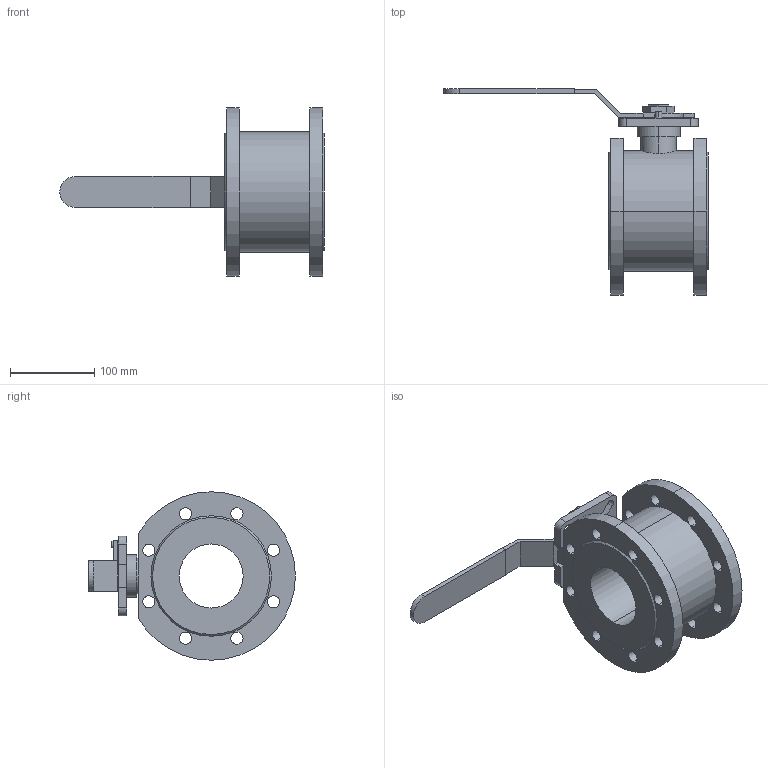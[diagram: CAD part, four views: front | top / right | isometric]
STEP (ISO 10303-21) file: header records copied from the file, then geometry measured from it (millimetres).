
FILE_DESCRIPTION (( 'STEP AP203' ), '1' );
FILE_NAME ('01.622I080X16CP.STEP', '2018-10-23T08:47:07', ( '' ), ( '' ), 'SwSTEP 2.0', 'SolidWorks 2014', '' );
FILE_SCHEMA (( 'CONFIG_CONTROL_DESIGN' ));
Length unit declared in the file: millimetre
Products named in the file (1): 01.622I080X16CP
Bounding box: 314 x 245.5 x 200 mm (x, y, z)
Volume: 1948310.2 mm3; surface area: 222378.7 mm2
Topology: 1 solids, 1 shells, 138 faces, 369 edges, 246 vertices
Faces by surface type: plane 68, cylinder 66, cone 4
Entity records: 4610 total; most frequent: CARTESIAN_POINT 856, DIRECTION 783, ORIENTED_EDGE 738, EDGE_CURVE 369, AXIS2_PLACEMENT_3D 277, VERTEX_POINT 246, LINE 229, VECTOR 229
